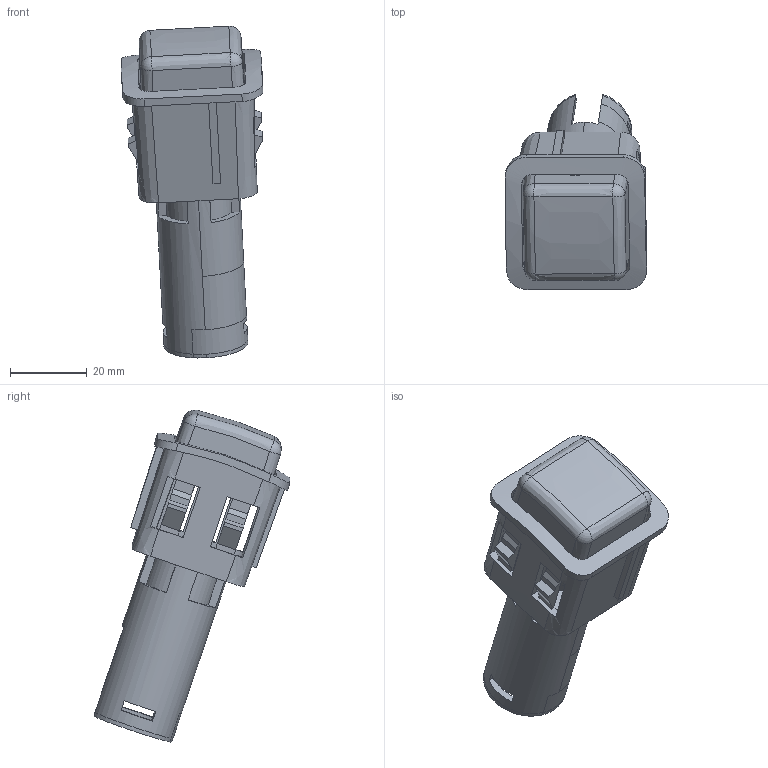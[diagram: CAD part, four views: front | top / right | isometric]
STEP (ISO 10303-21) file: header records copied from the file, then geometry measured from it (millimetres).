
FILE_DESCRIPTION(('CATIA V5 STEP Exchange','CAx-IF Rec.Pracs.--- Model Styling and Organization---1.4--- 2014-01-23'),'2;1');
FILE_NAME('C:\Users\luhaitao\Desktop\塑料件平台项目\塑料件样件清单\8.stp','2025-04-28T01:25:45+00:00',('none'),('none'),'CATIA Version 5-6 Release 2017','CATIA V5 STEP AP214','none');
FILE_SCHEMA(('AUTOMOTIVE_DESIGN { 1 0 10303 214 1 1 1 1 }'));
Length unit declared in the file: millimetre
Products named in the file (1): SuJiang_AllCATPart
Bounding box: 37.05 x 51.18 x 86.75 mm (x, y, z)
Volume: 20209.8 mm3; surface area: 21369.6 mm2
Topology: 2 solids, 2 shells, 343 faces, 1071 edges, 714 vertices
Faces by surface type: plane 149, bspline 92, cylinder 71, cone 12, extrusion 9, sphere 8, torus 2
Entity records: 16250 total; most frequent: CARTESIAN_POINT 7919, ORIENTED_EDGE 2126, EDGE_CURVE 1063, DIRECTION 907, VERTEX_POINT 714, B_SPLINE_CURVE_WITH_KNOTS 500, VECTOR 469, LINE 460
